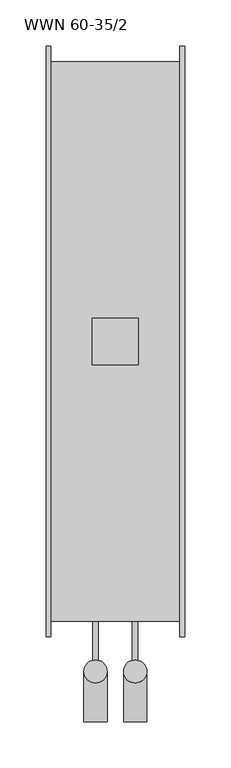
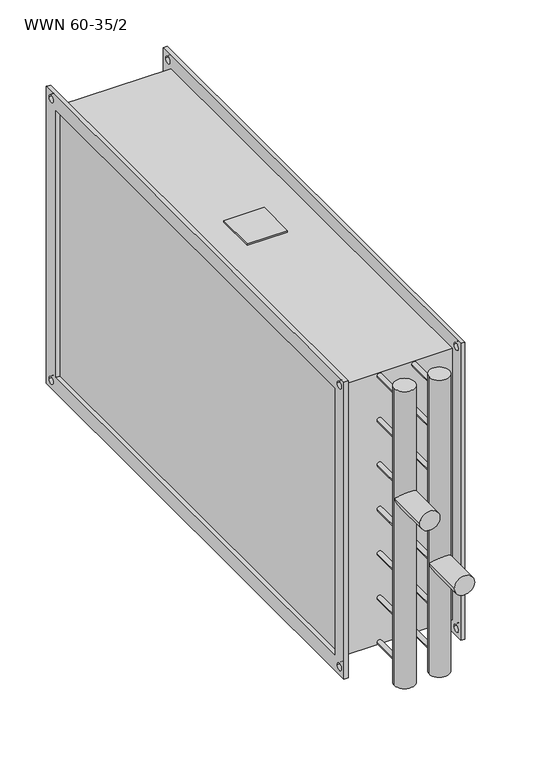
"""IFC4 building model written with IfcOpenShell, lengths in millimetres: proxy geometry, KORF_Нагреватель_Водяной_WWN : WWN 60-35/2."""

from ifc_helpers import new_model, si_unit, point, frame, frame_2d, origin, place, context, project, spatial, polyline, circle_curve, ellipse_curve, trimmed, segment, composite_curve, outline, extrude, source, transform, mapped, element, save
from ifc_brep_helpers import plane_surface, cylinder_surface, advanced_brep


def wwn_60_35_2_a002b3c5(model_context):
    return source(origin(), model_context, "Body", "SolidModel", [
        extrude(outline(polyline([(50.0, -25.0), (50.0, 25.0), (100.0, 25.0), (100.0, -25.0), (50.0, -25.0)])), frame((0.0, 0.0, 178.0), z_axis=(0.0, 0.0, 1.0), x_axis=(1.0, 0.0, 0.0)), (0.0, 0.0, 1.0), 2.0),
        extrude(outline(polyline([(-320.0, 195.0), (320.0, 195.0), (320.0, -195.0), (-320.0, -195.0), (-320.0, 195.0)]), holes=[polyline([(-300.0, 175.0), (-300.0, -175.0), (300.0, -175.0), (300.0, 175.0), (-300.0, 175.0)]), composite_curve([segment(trimmed(circle_curve(frame_2d((310.0, 185.0)), 4.5), [point((305.5, 185.0))], [point((314.5, 185.0))], True, "CARTESIAN"), True, "CONTINUOUS"), segment(trimmed(circle_curve(frame_2d((310.0, 185.0)), 4.5), [point((314.5, 185.0))], [point((305.5, 185.0))], True, "CARTESIAN"), True, "CONTINUOUS")], self_intersect=False), composite_curve([segment(trimmed(circle_curve(frame_2d((-310.0, 185.0)), 4.5), [point((-314.5, 185.0))], [point((-305.5, 185.0))], True, "CARTESIAN"), True, "CONTINUOUS"), segment(trimmed(circle_curve(frame_2d((-310.0, 185.0)), 4.5), [point((-305.5, 185.0))], [point((-314.5, 185.0))], True, "CARTESIAN"), True, "CONTINUOUS")], self_intersect=False), composite_curve([segment(trimmed(circle_curve(frame_2d((-310.0, -185.0)), 4.5), [point((-314.5, -185.0))], [point((-305.5, -185.0))], True, "CARTESIAN"), True, "CONTINUOUS"), segment(trimmed(circle_curve(frame_2d((-310.0, -185.0)), 4.5), [point((-305.5, -185.0))], [point((-314.5, -185.0))], True, "CARTESIAN"), True, "CONTINUOUS")], self_intersect=False), composite_curve([segment(trimmed(circle_curve(frame_2d((310.0, -185.0)), 4.5), [point((305.5, -185.0))], [point((314.5, -185.0))], True, "CARTESIAN"), True, "CONTINUOUS"), segment(trimmed(circle_curve(frame_2d((310.0, -185.0)), 4.5), [point((314.5, -185.0))], [point((305.5, -185.0))], True, "CARTESIAN"), True, "CONTINUOUS")], self_intersect=False)]), frame((145.0, 0.0, 0.0), z_axis=(1.0, 0.0, 0.0), x_axis=(0.0, 1.0, 0.0)), (0.0, 0.0, 1.0), 5.0),
        extrude(outline(polyline([(-320.0, 195.0), (320.0, 195.0), (320.0, -195.0), (-320.0, -195.0), (-320.0, 195.0)]), holes=[polyline([(-300.0, 175.0), (-300.0, -175.0), (300.0, -175.0), (300.0, 175.0), (-300.0, 175.0)]), composite_curve([segment(trimmed(circle_curve(frame_2d((310.0, 185.0)), 4.5), [point((305.5, 185.0))], [point((314.5, 185.0))], True, "CARTESIAN"), True, "CONTINUOUS"), segment(trimmed(circle_curve(frame_2d((310.0, 185.0)), 4.5), [point((314.5, 185.0))], [point((305.5, 185.0))], True, "CARTESIAN"), True, "CONTINUOUS")], self_intersect=False), composite_curve([segment(trimmed(circle_curve(frame_2d((-310.0, 185.0)), 4.5), [point((-314.5, 185.0))], [point((-305.5, 185.0))], True, "CARTESIAN"), True, "CONTINUOUS"), segment(trimmed(circle_curve(frame_2d((-310.0, 185.0)), 4.5), [point((-305.5, 185.0))], [point((-314.5, 185.0))], True, "CARTESIAN"), True, "CONTINUOUS")], self_intersect=False), composite_curve([segment(trimmed(circle_curve(frame_2d((-310.0, -185.0)), 4.5), [point((-314.5, -185.0))], [point((-305.5, -185.0))], True, "CARTESIAN"), True, "CONTINUOUS"), segment(trimmed(circle_curve(frame_2d((-310.0, -185.0)), 4.5), [point((-305.5, -185.0))], [point((-314.5, -185.0))], True, "CARTESIAN"), True, "CONTINUOUS")], self_intersect=False), composite_curve([segment(trimmed(circle_curve(frame_2d((310.0, -185.0)), 4.5), [point((305.5, -185.0))], [point((314.5, -185.0))], True, "CARTESIAN"), True, "CONTINUOUS"), segment(trimmed(circle_curve(frame_2d((310.0, -185.0)), 4.5), [point((314.5, -185.0))], [point((305.5, -185.0))], True, "CARTESIAN"), True, "CONTINUOUS")], self_intersect=False)]), frame((0.0, 0.0, 0.0), z_axis=(1.0, 0.0, 0.0), x_axis=(0.0, 1.0, 0.0)), (0.0, 0.0, 1.0), 5.0),
        extrude(outline(polyline([(145.0, 303.0), (145.0, -303.0), (5.0, -303.0), (5.0, 303.0), (145.0, 303.0)])), frame((0.0, 0.0, -178.0), z_axis=(0.0, 0.0, 1.0), x_axis=(1.0, 0.0, 0.0)), (0.0, 0.0, 1.0), 356.0),
        advanced_brep(
        [(41.0, -412.0, 50.0), (66.0, -412.0, 50.0), (41.0, -357.5, 50.0), (66.0, -357.5, 50.0), (41.0, -357.5, 195.0), (66.0, -357.5, 195.0), (41.0, -357.5, -195.0), (66.0, -357.5, -195.0)],
        [
            (0, 1, circle_curve(frame((53.5, -412.0, 50.0), z_axis=(0.0, -1.0, 0.0), x_axis=(1.0, 0.0, 0.0)), 12.5)),
            (1, 0, circle_curve(frame((53.5, -412.0, 50.0), z_axis=(0.0, -1.0, 0.0), x_axis=(1.0, 0.0, 0.0)), 12.5)),
            (0, 2),
            (2, 3, ellipse_curve(frame((53.5, -357.5, 50.0), z_axis=(0.0, -0.7071067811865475, 0.7071067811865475), x_axis=(0.0, -0.7071067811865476, -0.7071067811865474)), 17.6776695, 12.5)),
            (3, 1),
            (3, 2, ellipse_curve(frame((53.5, -357.5, 50.0), z_axis=(0.0, -0.7071067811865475, -0.7071067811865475), x_axis=(0.0, -0.7071067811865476, 0.7071067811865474)), 17.6776695, 12.5)),
            (4, 5, circle_curve(frame((53.5, -357.5, 195.0), z_axis=(0.0, 0.0, 1.0), x_axis=(1.0, 0.0, 0.0)), 12.5)),
            (5, 4, circle_curve(frame((53.5, -357.5, 195.0), z_axis=(0.0, 0.0, 1.0), x_axis=(1.0, 0.0, 0.0)), 12.5)),
            (6, 7, circle_curve(frame((53.5, -357.5, -195.0), z_axis=(0.0, 0.0, -1.0), x_axis=(1.0, 0.0, 0.0)), 12.5)),
            (7, 6, circle_curve(frame((53.5, -357.5, -195.0), z_axis=(0.0, 0.0, -1.0), x_axis=(1.0, 0.0, 0.0)), 12.5)),
            (4, 2),
            (3, 5),
            (7, 3),
            (2, 6),
        ],
        [
            plane_surface(frame((66.0, -412.0, 50.0), z_axis=(0.0, -1.0, 0.0), x_axis=(0.0, 0.0, 1.0))),
            cylinder_surface(frame((53.5, -357.5, 50.0), z_axis=(0.0, -1.0, 0.0), x_axis=(1.0, 0.0, 0.0)), 12.5),
            plane_surface(frame((66.0, -357.5, 195.0), z_axis=(0.0, 0.0, 1.0), x_axis=(0.0, 1.0, 0.0))),
            plane_surface(frame((66.0, -357.5, -195.0), z_axis=(0.0, 0.0, -1.0), x_axis=(0.0, -1.0, 0.0))),
            cylinder_surface(frame((53.5, -357.5, -195.0), z_axis=(0.0, 0.0, 1.0), x_axis=(1.0, 0.0, 0.0)), 12.5),
        ],
        [
            (0, [[1, 2]]),
            (1, [[-1, 3, 4, 5]]),
            (1, [[-2, -5, 6, -3]]),
            (2, [[7, 8]]),
            (3, [[9, 10]]),
            (4, [[-7, 11, -6, 12]]),
            (4, [[-10, 13, -4, 14]]),
            (4, [[-8, -12, -13, -9, -14, -11]]),
        ],
    ),
        advanced_brep(
        [(84.0, -412.0, -50.0), (109.0, -412.0, -50.0), (84.0, -357.5, -50.0), (109.0, -357.5, -50.0), (84.0, -357.5, 195.0), (109.0, -357.5, 195.0), (84.0, -357.5, -195.0), (109.0, -357.5, -195.0)],
        [
            (0, 1, circle_curve(frame((96.5, -412.0, -50.0), z_axis=(0.0, -1.0, 0.0), x_axis=(1.0, 0.0, 0.0)), 12.5)),
            (1, 0, circle_curve(frame((96.5, -412.0, -50.0), z_axis=(0.0, -1.0, 0.0), x_axis=(1.0, 0.0, 0.0)), 12.5)),
            (0, 2),
            (2, 3, ellipse_curve(frame((96.5, -357.5, -50.0), z_axis=(0.0, -0.7071067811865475, 0.7071067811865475), x_axis=(0.0, -0.7071067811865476, -0.7071067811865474)), 17.6776695, 12.5)),
            (3, 1),
            (3, 2, ellipse_curve(frame((96.5, -357.5, -50.0), z_axis=(0.0, -0.7071067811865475, -0.7071067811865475), x_axis=(0.0, -0.7071067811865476, 0.7071067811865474)), 17.6776695, 12.5)),
            (4, 5, circle_curve(frame((96.5, -357.5, 195.0), z_axis=(0.0, 0.0, 1.0), x_axis=(1.0, 0.0, 0.0)), 12.5)),
            (5, 4, circle_curve(frame((96.5, -357.5, 195.0), z_axis=(0.0, 0.0, 1.0), x_axis=(1.0, 0.0, 0.0)), 12.5)),
            (6, 7, circle_curve(frame((96.5, -357.5, -195.0), z_axis=(0.0, 0.0, -1.0), x_axis=(1.0, 0.0, 0.0)), 12.5)),
            (7, 6, circle_curve(frame((96.5, -357.5, -195.0), z_axis=(0.0, 0.0, -1.0), x_axis=(1.0, 0.0, 0.0)), 12.5)),
            (4, 2),
            (3, 5),
            (7, 3),
            (2, 6),
        ],
        [
            plane_surface(frame((66.0, -412.0, 50.0), z_axis=(0.0, -1.0, 0.0), x_axis=(0.0, 0.0, 1.0))),
            cylinder_surface(frame((96.5, 0.0, -50.0), z_axis=(0.0, -1.0, 0.0), x_axis=(1.0, 0.0, 0.0)), 12.5),
            plane_surface(frame((66.0, -357.5, 195.0), z_axis=(0.0, 0.0, 1.0), x_axis=(0.0, 1.0, 0.0))),
            plane_surface(frame((66.0, -357.5, -195.0), z_axis=(0.0, 0.0, -1.0), x_axis=(0.0, -1.0, 0.0))),
            cylinder_surface(frame((96.5, -357.5, 0.0), z_axis=(0.0, 0.0, 1.0), x_axis=(1.0, 0.0, 0.0)), 12.5),
        ],
        [
            (0, [[1, 2]]),
            (1, [[-1, 3, 4, 5]]),
            (1, [[-2, -5, 6, -3]]),
            (2, [[7, 8]]),
            (3, [[9, 10]]),
            (4, [[-7, 11, -6, 12]]),
            (4, [[-10, 13, -4, 14]]),
            (4, [[-8, -12, -13, -9, -14, -11]]),
        ],
    ),
        extrude(outline(composite_curve([segment(trimmed(circle_curve(frame_2d((175.0, 53.5)), 3.0), [point((175.0, 50.5))], [point((175.0, 56.5))], False, "CARTESIAN"), True, "CONTINUOUS"), segment(trimmed(circle_curve(frame_2d((175.0, 53.5)), 3.0), [point((175.0, 56.5))], [point((175.0, 50.5))], False, "CARTESIAN"), True, "CONTINUOUS")], self_intersect=False)), frame((0.0, -357.5, 0.0), z_axis=(0.0, 1.0, 0.0), x_axis=(0.0, 0.0, 1.0)), (0.0, 0.0, 1.0), 54.5),
        extrude(outline(composite_curve([segment(trimmed(circle_curve(frame_2d((116.6666667, 53.5)), 3.0), [point((116.6666667, 50.5))], [point((116.6666667, 56.5))], False, "CARTESIAN"), True, "CONTINUOUS"), segment(trimmed(circle_curve(frame_2d((116.6666667, 53.5)), 3.0), [point((116.6666667, 56.5))], [point((116.6666667, 50.5))], False, "CARTESIAN"), True, "CONTINUOUS")], self_intersect=False)), frame((0.0, -357.5, 0.0), z_axis=(0.0, 1.0, 0.0), x_axis=(0.0, 0.0, 1.0)), (0.0, 0.0, 1.0), 54.5),
        extrude(outline(composite_curve([segment(trimmed(circle_curve(frame_2d((58.3333333, 53.5)), 3.0), [point((58.3333333, 50.5))], [point((58.3333333, 56.5))], False, "CARTESIAN"), True, "CONTINUOUS"), segment(trimmed(circle_curve(frame_2d((58.3333333, 53.5)), 3.0), [point((58.3333333, 56.5))], [point((58.3333333, 50.5))], False, "CARTESIAN"), True, "CONTINUOUS")], self_intersect=False)), frame((0.0, -357.5, 0.0), z_axis=(0.0, 1.0, 0.0), x_axis=(0.0, 0.0, 1.0)), (0.0, 0.0, 1.0), 54.5),
        extrude(outline(composite_curve([segment(trimmed(circle_curve(frame_2d((0.0, 53.5)), 3.0), [point((0.0, 50.5))], [point((0.0, 56.5))], False, "CARTESIAN"), True, "CONTINUOUS"), segment(trimmed(circle_curve(frame_2d((0.0, 53.5)), 3.0), [point((0.0, 56.5))], [point((0.0, 50.5))], False, "CARTESIAN"), True, "CONTINUOUS")], self_intersect=False)), frame((0.0, -357.5, 0.0), z_axis=(0.0, 1.0, 0.0), x_axis=(0.0, 0.0, 1.0)), (0.0, 0.0, 1.0), 54.5),
        extrude(outline(composite_curve([segment(trimmed(circle_curve(frame_2d((-58.3333333, 53.5)), 3.0), [point((-58.3333333, 50.5))], [point((-58.3333333, 56.5))], False, "CARTESIAN"), True, "CONTINUOUS"), segment(trimmed(circle_curve(frame_2d((-58.3333333, 53.5)), 3.0), [point((-58.3333333, 56.5))], [point((-58.3333333, 50.5))], False, "CARTESIAN"), True, "CONTINUOUS")], self_intersect=False)), frame((0.0, -357.5, 0.0), z_axis=(0.0, 1.0, 0.0), x_axis=(0.0, 0.0, 1.0)), (0.0, 0.0, 1.0), 54.5),
        extrude(outline(composite_curve([segment(trimmed(circle_curve(frame_2d((-116.6666667, 53.5)), 3.0), [point((-116.6666667, 50.5))], [point((-116.6666667, 56.5))], False, "CARTESIAN"), True, "CONTINUOUS"), segment(trimmed(circle_curve(frame_2d((-116.6666667, 53.5)), 3.0), [point((-116.6666667, 56.5))], [point((-116.6666667, 50.5))], False, "CARTESIAN"), True, "CONTINUOUS")], self_intersect=False)), frame((0.0, -357.5, 0.0), z_axis=(0.0, 1.0, 0.0), x_axis=(0.0, 0.0, 1.0)), (0.0, 0.0, 1.0), 54.5),
        extrude(outline(composite_curve([segment(trimmed(circle_curve(frame_2d((-116.6666667, 96.5)), 3.0), [point((-116.6666667, 93.5))], [point((-116.6666667, 99.5))], False, "CARTESIAN"), True, "CONTINUOUS"), segment(trimmed(circle_curve(frame_2d((-116.6666667, 96.5)), 3.0), [point((-116.6666667, 99.5))], [point((-116.6666667, 93.5))], False, "CARTESIAN"), True, "CONTINUOUS")], self_intersect=False)), frame((0.0, -357.5, 0.0), z_axis=(0.0, 1.0, 0.0), x_axis=(0.0, 0.0, 1.0)), (0.0, 0.0, 1.0), 54.5),
        extrude(outline(composite_curve([segment(trimmed(circle_curve(frame_2d((-58.3333333, 96.5)), 3.0), [point((-58.3333333, 93.5))], [point((-58.3333333, 99.5))], False, "CARTESIAN"), True, "CONTINUOUS"), segment(trimmed(circle_curve(frame_2d((-58.3333333, 96.5)), 3.0), [point((-58.3333333, 99.5))], [point((-58.3333333, 93.5))], False, "CARTESIAN"), True, "CONTINUOUS")], self_intersect=False)), frame((0.0, -357.5, 0.0), z_axis=(0.0, 1.0, 0.0), x_axis=(0.0, 0.0, 1.0)), (0.0, 0.0, 1.0), 54.5),
        extrude(outline(composite_curve([segment(trimmed(circle_curve(frame_2d((0.0, 96.5)), 3.0), [point((0.0, 93.5))], [point((0.0, 99.5))], False, "CARTESIAN"), True, "CONTINUOUS"), segment(trimmed(circle_curve(frame_2d((0.0, 96.5)), 3.0), [point((0.0, 99.5))], [point((0.0, 93.5))], False, "CARTESIAN"), True, "CONTINUOUS")], self_intersect=False)), frame((0.0, -357.5, 0.0), z_axis=(0.0, 1.0, 0.0), x_axis=(0.0, 0.0, 1.0)), (0.0, 0.0, 1.0), 54.5),
        extrude(outline(composite_curve([segment(trimmed(circle_curve(frame_2d((58.3333333, 96.5)), 3.0), [point((58.3333333, 93.5))], [point((58.3333333, 99.5))], False, "CARTESIAN"), True, "CONTINUOUS"), segment(trimmed(circle_curve(frame_2d((58.3333333, 96.5)), 3.0), [point((58.3333333, 99.5))], [point((58.3333333, 93.5))], False, "CARTESIAN"), True, "CONTINUOUS")], self_intersect=False)), frame((0.0, -357.5, 0.0), z_axis=(0.0, 1.0, 0.0), x_axis=(0.0, 0.0, 1.0)), (0.0, 0.0, 1.0), 54.5),
        extrude(outline(composite_curve([segment(trimmed(circle_curve(frame_2d((116.6666667, 96.5)), 3.0), [point((116.6666667, 93.5))], [point((116.6666667, 99.5))], False, "CARTESIAN"), True, "CONTINUOUS"), segment(trimmed(circle_curve(frame_2d((116.6666667, 96.5)), 3.0), [point((116.6666667, 99.5))], [point((116.6666667, 93.5))], False, "CARTESIAN"), True, "CONTINUOUS")], self_intersect=False)), frame((0.0, -357.5, 0.0), z_axis=(0.0, 1.0, 0.0), x_axis=(0.0, 0.0, 1.0)), (0.0, 0.0, 1.0), 54.5),
        extrude(outline(composite_curve([segment(trimmed(circle_curve(frame_2d((175.0, 96.5)), 3.0), [point((175.0, 93.5))], [point((175.0, 99.5))], False, "CARTESIAN"), True, "CONTINUOUS"), segment(trimmed(circle_curve(frame_2d((175.0, 96.5)), 3.0), [point((175.0, 99.5))], [point((175.0, 93.5))], False, "CARTESIAN"), True, "CONTINUOUS")], self_intersect=False)), frame((0.0, -357.5, 0.0), z_axis=(0.0, 1.0, 0.0), x_axis=(0.0, 0.0, 1.0)), (0.0, 0.0, 1.0), 54.5),
        extrude(outline(composite_curve([segment(trimmed(circle_curve(frame_2d((-175.0, 53.5)), 3.0), [point((-175.0, 50.5))], [point((-175.0, 56.5))], False, "CARTESIAN"), True, "CONTINUOUS"), segment(trimmed(circle_curve(frame_2d((-175.0, 53.5)), 3.0), [point((-175.0, 56.5))], [point((-175.0, 50.5))], False, "CARTESIAN"), True, "CONTINUOUS")], self_intersect=False)), frame((0.0, -357.5, 0.0), z_axis=(0.0, 1.0, 0.0), x_axis=(0.0, 0.0, 1.0)), (0.0, 0.0, 1.0), 54.5),
        extrude(outline(composite_curve([segment(trimmed(circle_curve(frame_2d((-175.0, 96.5)), 3.0), [point((-175.0, 93.5))], [point((-175.0, 99.5))], False, "CARTESIAN"), True, "CONTINUOUS"), segment(trimmed(circle_curve(frame_2d((-175.0, 96.5)), 3.0), [point((-175.0, 99.5))], [point((-175.0, 93.5))], False, "CARTESIAN"), True, "CONTINUOUS")], self_intersect=False)), frame((0.0, -357.5, 0.0), z_axis=(0.0, 1.0, 0.0), x_axis=(0.0, 0.0, 1.0)), (0.0, 0.0, 1.0), 54.5),
    ])


if __name__ == "__main__":
    model = new_model("IFC4")
    model_context = context("Model", 3, world=origin())
    ifc_project = project(units=[si_unit("LENGTHUNIT", "METRE", prefix="MILLI")], contexts=[model_context])
    site = spatial("IfcSite", under=ifc_project)
    building = spatial("IfcBuilding", under=site)
    placement = place(None, origin())
    wwn_60_35_2_shape = wwn_60_35_2_a002b3c5(model_context)
    element("IfcBuildingElementProxy", 1, Name="KORF_Нагреватель_Водяной_WWN : WWN 60-35/2", ObjectType="KORF_Нагреватель_Водяной_WWN : WWN 60-35/2", at=placement, inside=building, context=model_context, shape_type="MappedRepresentation", body=[
        mapped(wwn_60_35_2_shape, transform((0.0, 0.0, 0.0), x_axis=(1.0, 0.0, 0.0), y_axis=(0.0, 1.0, 0.0), z_axis=(0.0, 0.0, 1.0))),
    ])
    save(model, "model.ifc")
